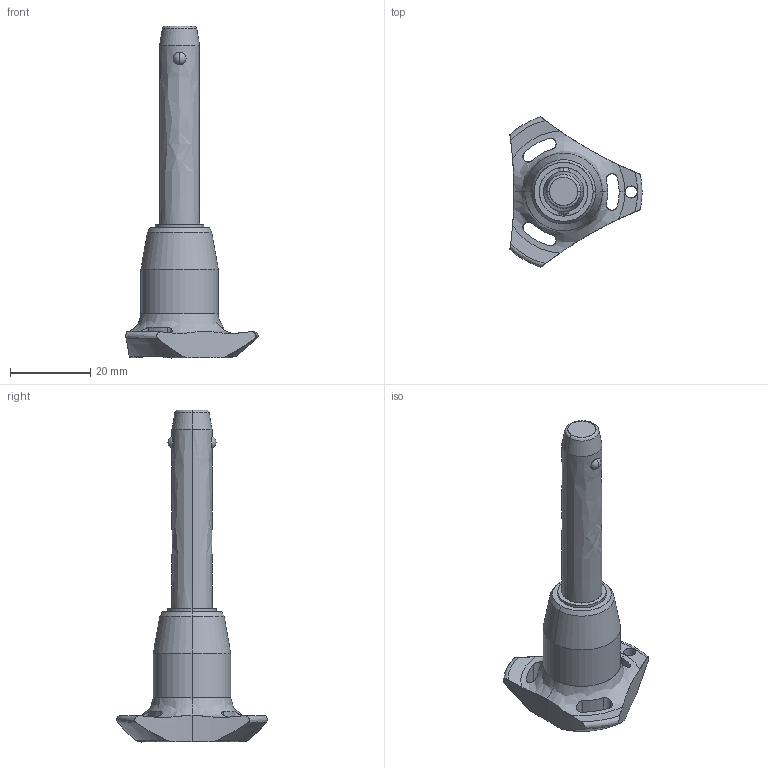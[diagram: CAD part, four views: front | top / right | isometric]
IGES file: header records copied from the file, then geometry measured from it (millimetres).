
Start section: SolidWorks IGES file using analytic representation for surfaces
Global section: file name: C:\Users\ianosborn\Desktop\QR1724_v2\QR1724_v2_20251112_IGES\QR1724.M10-040-S.igs; native system: SolidWorks 2019; preprocessor: SolidWorks 2019; author: IanOsborn; date: 251112.125328; units: millimetre
Bounding box: 33 x 37.51 x 82.9 mm (x, y, z)
Surface area: 5421.1 mm2 (no closed solid volume)
Topology: 0 solids, 0 shells, 65 faces, 1282 edges, 1278 vertices
Faces by surface type: revolution 50, bspline 15
